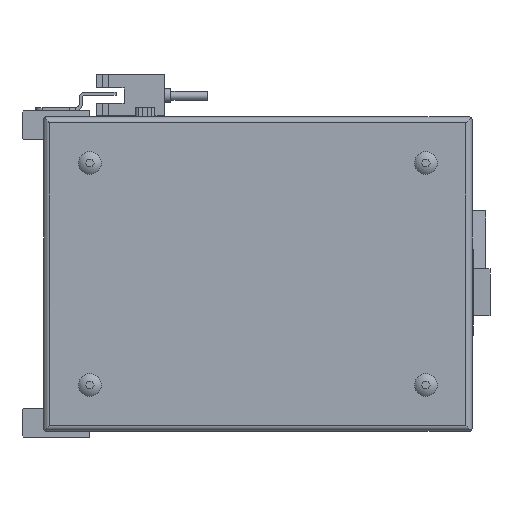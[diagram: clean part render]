
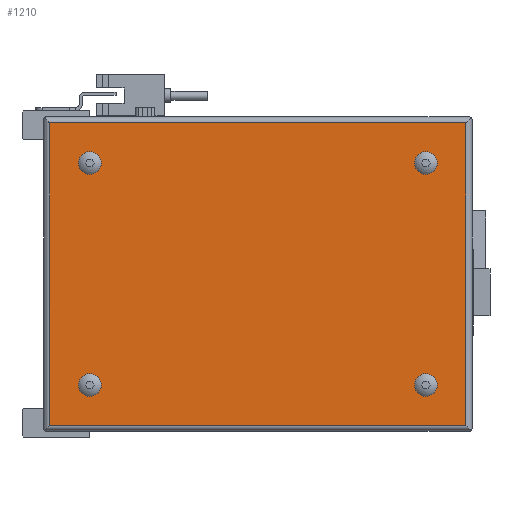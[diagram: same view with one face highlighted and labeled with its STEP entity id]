
A CAD part, left-side view. The second image highlights one B-rep face of the part: STEP entity #1210.
In plain terms, the highlighted planar face has unit normal (-1, 0, 0).
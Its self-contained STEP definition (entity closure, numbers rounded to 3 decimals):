
#1210 = ADVANCED_FACE( '', ( #2916, #2917, #2918, #2919, #2920 ), #2921, .F. );
#2916 = FACE_BOUND( '', #5301, .T. );
#2917 = FACE_BOUND( '', #5302, .T. );
#2918 = FACE_BOUND( '', #5303, .T. );
#2919 = FACE_BOUND( '', #5304, .T. );
#2920 = FACE_OUTER_BOUND( '', #5305, .T. );
#2921 = PLANE( '', #5306 );
#5301 = EDGE_LOOP( '', ( #8519 ) );
#5302 = EDGE_LOOP( '', ( #8520 ) );
#5303 = EDGE_LOOP( '', ( #8521 ) );
#5304 = EDGE_LOOP( '', ( #8522 ) );
#5305 = EDGE_LOOP( '', ( #8523, #8524, #8525, #8526 ) );
#5306 = AXIS2_PLACEMENT_3D( '', #8527, #8528, #8529 );
#8519 = ORIENTED_EDGE( '', *, *, #14489, .F. );
#8520 = ORIENTED_EDGE( '', *, *, #13844, .F. );
#8521 = ORIENTED_EDGE( '', *, *, #14519, .F. );
#8522 = ORIENTED_EDGE( '', *, *, #13742, .F. );
#8523 = ORIENTED_EDGE( '', *, *, #14520, .T. );
#8524 = ORIENTED_EDGE( '', *, *, #14521, .F. );
#8525 = ORIENTED_EDGE( '', *, *, #14414, .F. );
#8526 = ORIENTED_EDGE( '', *, *, #14522, .T. );
#8527 = CARTESIAN_POINT( '', ( -52., -75., 50. ) );
#8528 = DIRECTION( '', ( 1., 0., 0. ) );
#8529 = DIRECTION( '', ( 0., 0., -1. ) );
#13742 = EDGE_CURVE( '', #16315, #16315, #16316, .F. );
#13844 = EDGE_CURVE( '', #16500, #16500, #16501, .F. );
#14414 = EDGE_CURVE( '', #17496, #17497, #17498, .F. );
#14489 = EDGE_CURVE( '', #17617, #17617, #17618, .F. );
#14519 = EDGE_CURVE( '', #17667, #17667, #17668, .F. );
#14520 = EDGE_CURVE( '', #17669, #17670, #17671, .F. );
#14521 = EDGE_CURVE( '', #17497, #17670, #17672, .T. );
#14522 = EDGE_CURVE( '', #17496, #17669, #17673, .T. );
#16315 = VERTEX_POINT( '', #20156 );
#16316 = CIRCLE( '', #20157, 3.7 );
#16500 = VERTEX_POINT( '', #20411 );
#16501 = CIRCLE( '', #20412, 3.7 );
#17496 = VERTEX_POINT( '', #21886 );
#17497 = VERTEX_POINT( '', #21887 );
#17498 = LINE( '', #21888, #21889 );
#17617 = VERTEX_POINT( '', #22088 );
#17618 = CIRCLE( '', #22089, 3.7 );
#17667 = VERTEX_POINT( '', #22158 );
#17668 = CIRCLE( '', #22159, 3.7 );
#17669 = VERTEX_POINT( '', #22160 );
#17670 = VERTEX_POINT( '', #22161 );
#17671 = LINE( '', #22162, #22163 );
#17672 = LINE( '', #22164, #22165 );
#17673 = LINE( '', #22166, #22167 );
#20156 = CARTESIAN_POINT( '', ( -52., 48., -39.7 ) );
#20157 = AXIS2_PLACEMENT_3D( '', #25792, #25793, #25794 );
#20411 = CARTESIAN_POINT( '', ( -52., -61., -39.7 ) );
#20412 = AXIS2_PLACEMENT_3D( '', #25910, #25911, #25912 );
#21886 = CARTESIAN_POINT( '', ( -52., -74., -49. ) );
#21887 = CARTESIAN_POINT( '', ( -52., 61., -49. ) );
#21888 = CARTESIAN_POINT( '', ( -52., 139., -49. ) );
#21889 = VECTOR( '', #26605, 1000. );
#22088 = CARTESIAN_POINT( '', ( -52., -61., 32.3 ) );
#22089 = AXIS2_PLACEMENT_3D( '', #26690, #26691, #26692 );
#22158 = CARTESIAN_POINT( '', ( -52., 48., 32.3 ) );
#22159 = AXIS2_PLACEMENT_3D( '', #26719, #26720, #26721 );
#22160 = CARTESIAN_POINT( '', ( -52., -74., 49. ) );
#22161 = CARTESIAN_POINT( '', ( -52., 61., 49. ) );
#22162 = CARTESIAN_POINT( '', ( -52., 139., 49. ) );
#22163 = VECTOR( '', #26722, 1000. );
#22164 = CARTESIAN_POINT( '', ( -52., 61., -102. ) );
#22165 = VECTOR( '', #26723, 1000. );
#22166 = CARTESIAN_POINT( '', ( -52., -74., -102. ) );
#22167 = VECTOR( '', #26724, 1000. );
#25792 = CARTESIAN_POINT( '', ( -52., 48., -36. ) );
#25793 = DIRECTION( '', ( 1., 0., 0. ) );
#25794 = DIRECTION( '', ( 0., 0., -1. ) );
#25910 = CARTESIAN_POINT( '', ( -52., -61., -36. ) );
#25911 = DIRECTION( '', ( 1., 0., 0. ) );
#25912 = DIRECTION( '', ( 0., 0., -1. ) );
#26605 = DIRECTION( '', ( 0., -1., 0. ) );
#26690 = CARTESIAN_POINT( '', ( -52., -61., 36. ) );
#26691 = DIRECTION( '', ( 1., 0., 0. ) );
#26692 = DIRECTION( '', ( 0., 0., -1. ) );
#26719 = CARTESIAN_POINT( '', ( -52., 48., 36. ) );
#26720 = DIRECTION( '', ( 1., 0., 0. ) );
#26721 = DIRECTION( '', ( 0., 0., -1. ) );
#26722 = DIRECTION( '', ( 0., -1., 0. ) );
#26723 = DIRECTION( '', ( 0., 0., 1. ) );
#26724 = DIRECTION( '', ( 0., 0., 1. ) );
